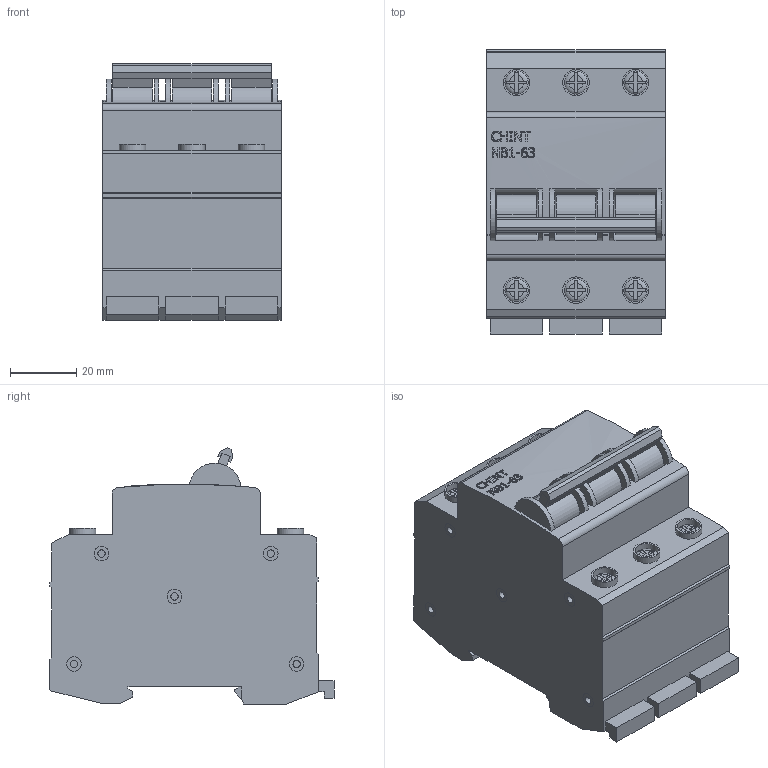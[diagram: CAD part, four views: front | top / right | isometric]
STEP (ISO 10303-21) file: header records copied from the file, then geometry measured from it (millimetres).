
FILE_DESCRIPTION(/* description */ (''),/* implementation_level */ '2;1');
FILE_NAME(/* name */ 'D:\CHINT\NB1-63\Авт. выкл. NB1-63 3P 16A 6кА х-ка B (DB) (CHINT).stp',/* time_stamp */ '2017-09-03T19:44:54+04:00',/* author */ ('RSagdiev'),/* organization */ (''),/* preprocessor_version */ 'ST-DEVELOPER v16.5',/* originating_system */ 'Autodesk Inventor 2017',/* authorisation */ '');
FILE_SCHEMA (('AUTOMOTIVE_DESIGN { 1 0 10303 214 3 1 1 }'));
Length unit declared in the file: millimetre
Products named in the file (1): Авт. выкл. NB1-63 3P 16A 6\X2\043A
0410\X0\ х-ка B (DB) (CHINT)
Bounding box: 54 x 86 x 77.58 mm (x, y, z)
Volume: 249348.9 mm3; surface area: 40042.6 mm2
Topology: 44 solids, 54 shells, 668 faces, 1524 edges, 1010 vertices
Faces by surface type: plane 457, cylinder 136, bspline 69, torus 6
Full cylindrical faces by diameter (mm): 2.211 x45, 4.422 x45, 7 x6, 8 x6
Entity records: 19579 total; most frequent: CARTESIAN_POINT 4832, DIRECTION 2922, ORIENTED_EDGE 2820, EDGE_CURVE 1410, AXIS2_PLACEMENT_3D 1050, VERTEX_POINT 1004, EDGE_LOOP 882, LINE 822
